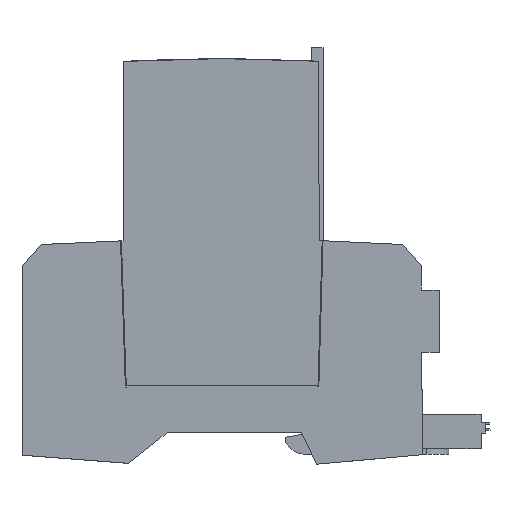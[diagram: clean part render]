
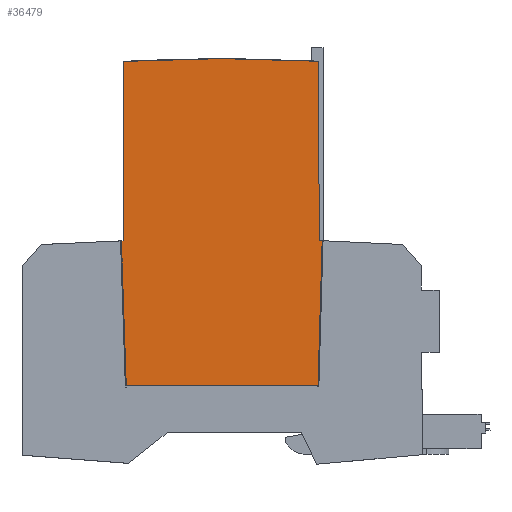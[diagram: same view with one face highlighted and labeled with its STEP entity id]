
A CAD part, left-side view. The second image highlights one B-rep face of the part: STEP entity #36479.
In plain terms, the highlighted planar face has unit normal (-1, 0, 0).
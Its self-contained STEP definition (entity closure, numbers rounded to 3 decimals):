
#6166=DIRECTION('',(0.,-0.999,-0.047));
#6167=VECTOR('',#6166,0.68);
#6168=CARTESIAN_POINT('',(0.05,38.354,50.441));
#6169=LINE('',#6168,#6167);
#7013=DIRECTION('',(0.,-0.003,-1.));
#7014=VECTOR('',#7013,40.468);
#7015=CARTESIAN_POINT('',(0.05,38.46,90.909));
#7016=LINE('',#7015,#7014);
#7299=CARTESIAN_POINT('',(0.05,82.55,90.871));
#7300=CARTESIAN_POINT('',(0.05,67.854,91.695));
#7301=CARTESIAN_POINT('',(0.05,53.158,91.708));
#7302=CARTESIAN_POINT('',(0.05,38.46,90.909));
#8016=DIRECTION('',(0.,0.,1.));
#8017=VECTOR('',#8016,40.484);
#8018=CARTESIAN_POINT('',(0.05,82.55,50.388));
#8019=LINE('',#8018,#8017);
#15621=DIRECTION('',(0.,0.033,0.999));
#15622=VECTOR('',#15621,32.711);
#15623=CARTESIAN_POINT('',(0.05,81.893,17.675));
#15624=LINE('',#15623,#15622);
#15628=DIRECTION('',(0.,-0.999,0.045));
#15629=VECTOR('',#15628,0.438);
#15630=CARTESIAN_POINT('',(0.05,82.987,50.368));
#15631=LINE('',#15630,#15629);
#15635=DIRECTION('',(0.,0.029,-1.));
#15636=VECTOR('',#15635,32.747);
#15637=CARTESIAN_POINT('',(0.05,37.676,50.409));
#15638=LINE('',#15637,#15636);
#15642=DIRECTION('',(0.,-1.,0.));
#15643=VECTOR('',#15642,43.276);
#15644=CARTESIAN_POINT('',(0.05,81.893,17.675));
#15645=LINE('',#15644,#15643);
#19270=CARTESIAN_POINT('',(0.05,82.55,50.388));
#19271=CARTESIAN_POINT('',(0.05,82.55,90.871));
#19272=VERTEX_POINT('',#19270);
#19273=VERTEX_POINT('',#19271);
#19274=VERTEX_POINT('',#7302);
#19275=CARTESIAN_POINT('',(0.05,38.354,50.441));
#19276=VERTEX_POINT('',#19275);
#19277=CARTESIAN_POINT('',(0.05,37.676,50.409));
#19278=VERTEX_POINT('',#19277);
#19319=CARTESIAN_POINT('',(0.05,82.987,50.368));
#19321=VERTEX_POINT('',#19319);
#19416=CARTESIAN_POINT('',(0.05,81.893,17.675));
#19417=VERTEX_POINT('',#19416);
#19418=CARTESIAN_POINT('',(0.05,38.617,17.675));
#19420=VERTEX_POINT('',#19418);
#36464=CARTESIAN_POINT('',(0.05,0.,0.));
#36465=DIRECTION('',(-1.,0.,0.));
#36466=DIRECTION('',(0.,0.,1.));
#36467=AXIS2_PLACEMENT_3D('',#36464,#36465,#36466);
#36468=PLANE('',#36467);
#36469=ORIENTED_EDGE('',*,*,#27432,.T.);
#36470=ORIENTED_EDGE('',*,*,#22019,.T.);
#36471=ORIENTED_EDGE('',*,*,#27123,.T.);
#36472=ORIENTED_EDGE('',*,*,#26357,.T.);
#36473=ORIENTED_EDGE('',*,*,#26197,.T.);
#36474=ORIENTED_EDGE('',*,*,#24235,.T.);
#36475=ORIENTED_EDGE('',*,*,#27365,.T.);
#36476=ORIENTED_EDGE('',*,*,#21816,.F.);
#36477=EDGE_LOOP('',(#36469,#36470,#36471,#36472,#36473,#36474,#36475,#36476));
#36478=FACE_OUTER_BOUND('',#36477,.F.);
#7303=B_SPLINE_CURVE_WITH_KNOTS('',3,(#7299,#7300,#7301,#7302),.UNSPECIFIED.,
.F.,.F.,(4,4),(0.,1.),.UNSPECIFIED.);
#21816=EDGE_CURVE('',#19417,#19420,#15645,.T.);
#22019=EDGE_CURVE('',#19321,#19272,#15631,.T.);
#24235=EDGE_CURVE('',#19276,#19278,#6169,.T.);
#26197=EDGE_CURVE('',#19274,#19276,#7016,.T.);
#26357=EDGE_CURVE('',#19273,#19274,#7303,.T.);
#27123=EDGE_CURVE('',#19272,#19273,#8019,.T.);
#27365=EDGE_CURVE('',#19278,#19420,#15638,.T.);
#27432=EDGE_CURVE('',#19417,#19321,#15624,.T.);
#36479=ADVANCED_FACE('',(#36478),#36468,.T.);
